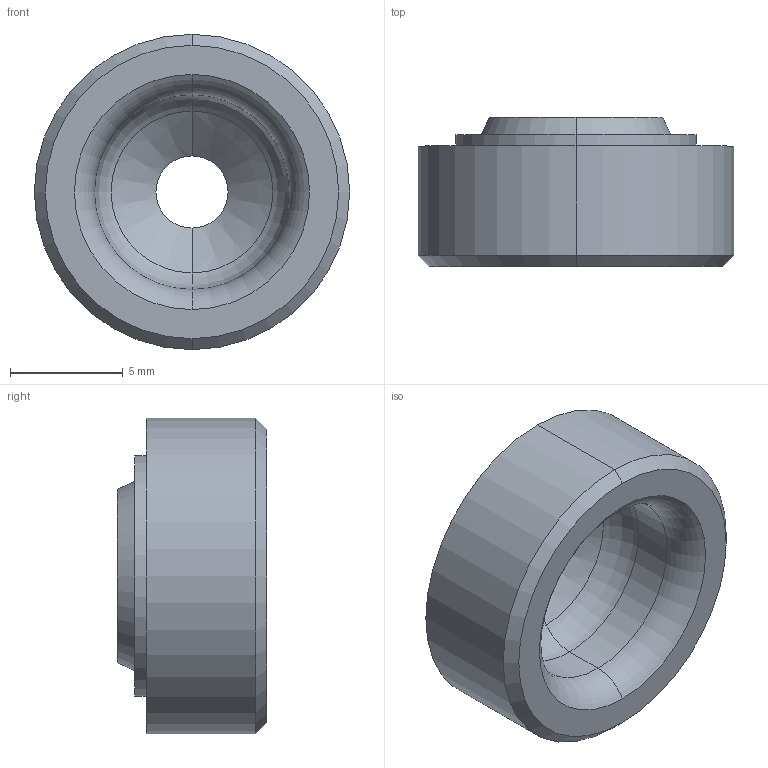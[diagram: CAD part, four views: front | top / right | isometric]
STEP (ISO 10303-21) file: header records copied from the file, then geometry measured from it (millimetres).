
FILE_DESCRIPTION(('FreeCAD Model'),'2;1');
FILE_NAME( 'D:/2015 new/openBCI/M3 Cad/M3K parts/M3K_Electrode holder.STEP', '2015-11-05T13:36:03',('FreeCAD'),('FreeCAD'), 'Open CASCADE STEP processor 6.3','FreeCAD','Unknown');
FILE_SCHEMA(('AUTOMOTIVE_DESIGN_CC2 { 1 2 10303 214 -1 1 5 4 }'));
Length unit declared in the file: millimetre
Products named in the file (1): M3_Electrode_Holder_05
Bounding box: 13.97 x 6.6 x 13.97 mm (x, y, z)
Volume: 577.4 mm3; surface area: 653.3 mm2
Topology: 1 solids, 1 shells, 22 faces, 44 edges, 26 vertices
Faces by surface type: cone 8, cylinder 6, torus 4, plane 4
Entity records: 1461 total; most frequent: CARTESIAN_POINT 647, DIRECTION 124, ORIENTED_EDGE 88, PCURVE 88, DEFINITIONAL_REPRESENTATION 88, B_SPLINE_CURVE_WITH_KNOTS 72, AXIS2_PLACEMENT_3D 53, EDGE_CURVE 44
